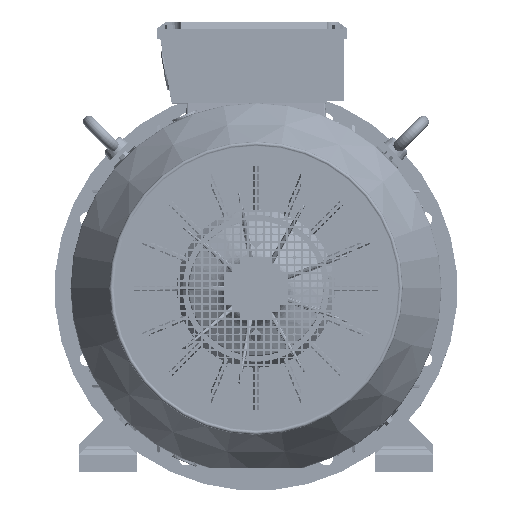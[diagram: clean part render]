
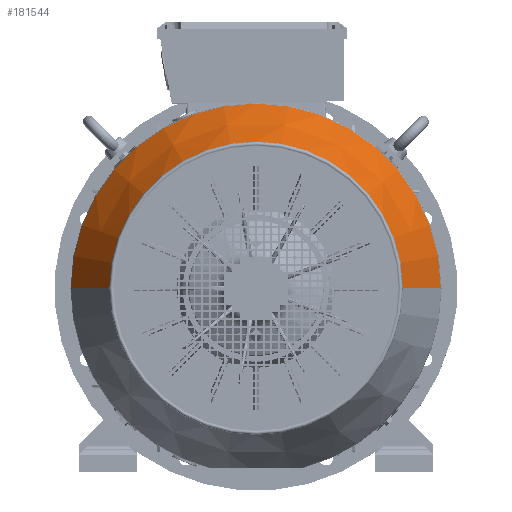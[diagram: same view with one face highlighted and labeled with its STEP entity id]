
A CAD part, top view. The second image highlights one B-rep face of the part: STEP entity #181544.
In plain terms, the highlighted conical face has half-angle 28.793 degrees and reference radius 200.371 mm.
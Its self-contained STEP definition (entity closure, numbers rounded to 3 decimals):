
#181474 = VERTEX_POINT ( 'NONE', #185302 ) ;
#181479 = VERTEX_POINT ( 'NONE', #185448 ) ;
#181503 = EDGE_LOOP ( 'NONE', ( #181548, #181554, #181566, #181575 ) ) ;
#181544 = ADVANCED_FACE ( 'NONE', ( #185567 ), #185549, .T. ) ;
#181548 = ORIENTED_EDGE ( 'NONE', *, *, #181550, .T. ) ;
#181550 = EDGE_CURVE ( 'NONE', #181479, #181474, #185680, .T. ) ;
#181554 = ORIENTED_EDGE ( 'NONE', *, *, #181559, .T. ) ;
#181559 = EDGE_CURVE ( 'NONE', #181474, #181560, #185658, .T. ) ;
#181560 = VERTEX_POINT ( 'NONE', #185651 ) ;
#181566 = ORIENTED_EDGE ( 'NONE', *, *, #181570, .F. ) ;
#181570 = EDGE_CURVE ( 'NONE', #181571, #181560, #185631, .T. ) ;
#181571 = VERTEX_POINT ( 'NONE', #185621 ) ;
#181575 = ORIENTED_EDGE ( 'NONE', *, *, #181580, .F. ) ;
#181580 = EDGE_CURVE ( 'NONE', #181479, #181571, #185756, .T. ) ;
#185302 = CARTESIAN_POINT ( 'NONE',  ( -200.371, 0., -208.325 ) ) ;
#185448 = CARTESIAN_POINT ( 'NONE',  ( 200.371, 0., -208.325 ) ) ;
#185527 = CARTESIAN_POINT ( 'NONE',  ( 0., 0., -208.325 ) ) ;
#185543 = DIRECTION ( 'NONE',  ( 1., 0., 0. ) ) ;
#185545 = DIRECTION ( 'NONE',  ( 0., 0., 1. ) ) ;
#185547 = AXIS2_PLACEMENT_3D ( 'NONE', #185556, #185545, #185543 ) ;
#185549 = CONICAL_SURFACE ( 'NONE', #185547, 200.371, 0.503 ) ;
#185556 = CARTESIAN_POINT ( 'NONE',  ( 0., 0., -208.325 ) ) ;
#185567 = FACE_OUTER_BOUND ( 'NONE', #181503, .T. ) ;
#185621 = CARTESIAN_POINT ( 'NONE',  ( 252.335, 0., -113.775 ) ) ;
#185624 = DIRECTION ( 'NONE',  ( 1., 0., 0. ) ) ;
#185626 = DIRECTION ( 'NONE',  ( 0., 0., 1. ) ) ;
#185628 = CARTESIAN_POINT ( 'NONE',  ( 0., 0., -113.775 ) ) ;
#185629 = AXIS2_PLACEMENT_3D ( 'NONE', #185628, #185626, #185624 ) ;
#185631 = CIRCLE ( 'NONE', #185629, 252.335 ) ;
#185651 = CARTESIAN_POINT ( 'NONE',  ( -252.335, 0., -113.775 ) ) ;
#185653 = DIRECTION ( 'NONE',  ( -0.482, 0., 0.876 ) ) ;
#185655 = VECTOR ( 'NONE', #185653, 1000. ) ;
#185657 = CARTESIAN_POINT ( 'NONE',  ( -200.371, 0., -208.325 ) ) ;
#185658 = LINE ( 'NONE', #185657, #185655 ) ;
#185673 = DIRECTION ( 'NONE',  ( 1., 0., 0. ) ) ;
#185675 = DIRECTION ( 'NONE',  ( 0., 0., 1. ) ) ;
#185678 = AXIS2_PLACEMENT_3D ( 'NONE', #185527, #185675, #185673 ) ;
#185680 = CIRCLE ( 'NONE', #185678, 200.371 ) ;
#185751 = DIRECTION ( 'NONE',  ( 0.482, 0., 0.876 ) ) ;
#185753 = VECTOR ( 'NONE', #185751, 1000. ) ;
#185754 = CARTESIAN_POINT ( 'NONE',  ( 200.371, 0., -208.325 ) ) ;
#185756 = LINE ( 'NONE', #185754, #185753 ) ;
